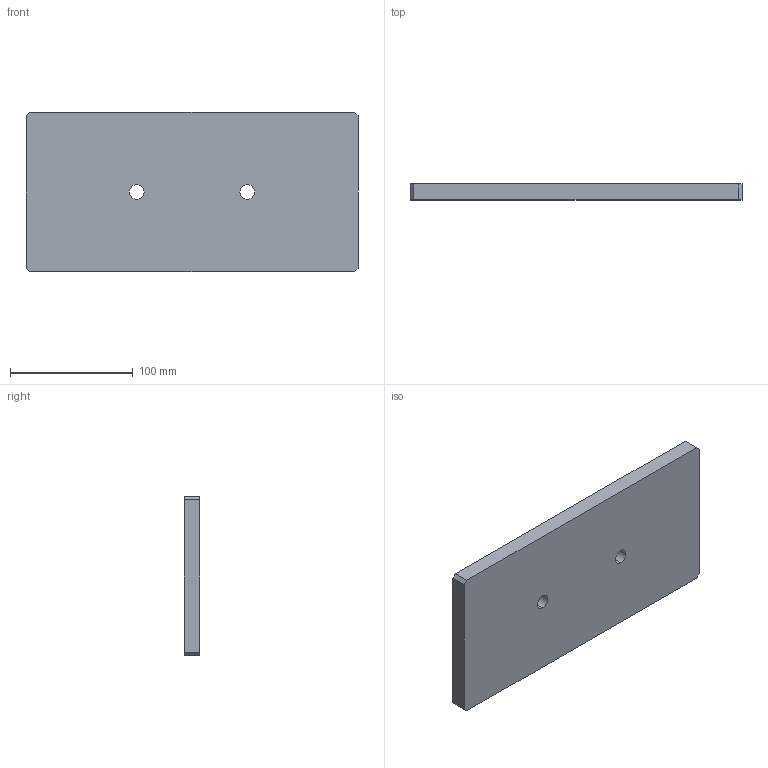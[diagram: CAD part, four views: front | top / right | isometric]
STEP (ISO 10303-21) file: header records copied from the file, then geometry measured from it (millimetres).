
FILE_DESCRIPTION (( 'STEP AP214' ), '1' );
FILE_NAME ('ワークパレット.STEP', '2024-05-17T04:42:26', ( '' ), ( '' ), 'SwSTEP 2.0', 'SolidWorks 2023', '' );
FILE_SCHEMA (( 'AUTOMOTIVE_DESIGN' ));
Length unit declared in the file: millimetre
Products named in the file (1): ワークパレット
Bounding box: 270 x 13 x 130 mm (x, y, z)
Volume: 416593.3 mm3; surface area: 81979.3 mm2
Topology: 1 solids, 1 shells, 23 faces, 60 edges, 40 vertices
Faces by surface type: plane 15, cylinder 8
Entity records: 741 total; most frequent: DIRECTION 124, CARTESIAN_POINT 124, ORIENTED_EDGE 120, EDGE_CURVE 60, VECTOR 44, LINE 44, VERTEX_POINT 40, AXIS2_PLACEMENT_3D 40
